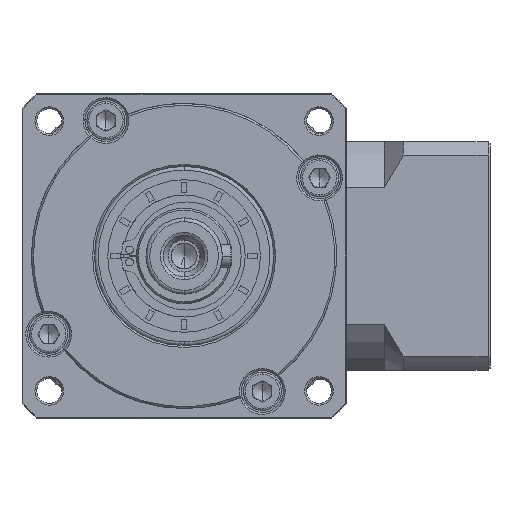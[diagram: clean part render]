
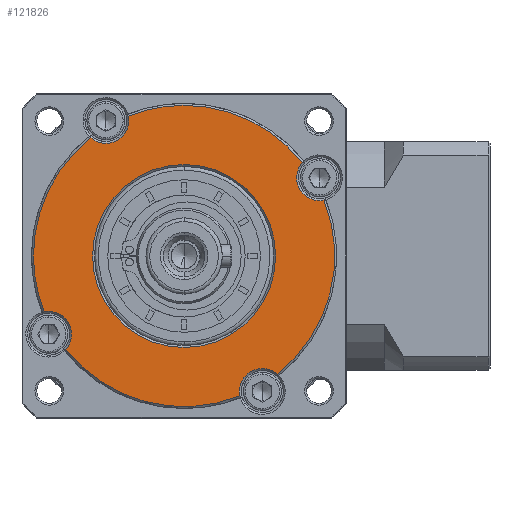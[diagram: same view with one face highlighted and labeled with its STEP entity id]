
A CAD part, left-side view. The second image highlights one B-rep face of the part: STEP entity #121826.
In plain terms, the highlighted planar face has unit normal (-1, 0, 0).
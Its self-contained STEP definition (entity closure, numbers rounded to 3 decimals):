
#231 = CIRCLE ( 'NONE', #160649, 39.5 ) ;
#1283 = DIRECTION ( 'NONE',  ( 1., 0., 0. ) ) ;
#1534 = DIRECTION ( 'NONE',  ( 1., 0., 0. ) ) ;
#2944 = CIRCLE ( 'NONE', #53616, 6. ) ;
#4225 = ORIENTED_EDGE ( 'NONE', *, *, #18639, .F. ) ;
#5089 = CARTESIAN_POINT ( 'NONE',  ( -104.86, -5.555, -122.89 ) ) ;
#5146 = CIRCLE ( 'NONE', #153639, 39.5 ) ;
#10263 = EDGE_CURVE ( 'NONE', #135208, #82664, #5146, .T. ) ;
#14189 = FACE_BOUND ( 'NONE', #161072, .T. ) ;
#18488 = DIRECTION ( 'NONE',  ( 0., 0., 1. ) ) ;
#18525 = DIRECTION ( 'NONE',  ( 1., 0., 0. ) ) ;
#18639 = EDGE_CURVE ( 'NONE', #142293, #23270, #36441, .T. ) ;
#23270 = VERTEX_POINT ( 'NONE', #166067 ) ;
#25372 = ORIENTED_EDGE ( 'NONE', *, *, #87611, .T. ) ;
#26601 = AXIS2_PLACEMENT_3D ( 'NONE', #81597, #1534, #95001 ) ;
#26745 = CARTESIAN_POINT ( 'NONE',  ( -104.86, -5.555, -122.89 ) ) ;
#27176 = AXIS2_PLACEMENT_3D ( 'NONE', #108130, #28060, #121541 ) ;
#28060 = DIRECTION ( 'NONE',  ( 1., 0., 0. ) ) ;
#28217 = CARTESIAN_POINT ( 'NONE',  ( -104.86, 31.14, -137.508 ) ) ;
#29531 = CARTESIAN_POINT ( 'NONE',  ( -104.86, 14.945, -87.383 ) ) ;
#32075 = VERTEX_POINT ( 'NONE', #71315 ) ;
#32688 = ORIENTED_EDGE ( 'NONE', *, *, #10263, .F. ) ;
#33049 = CIRCLE ( 'NONE', #158533, 6. ) ;
#34208 = EDGE_CURVE ( 'NONE', #135208, #143760, #72575, .T. ) ;
#36024 = AXIS2_PLACEMENT_3D ( 'NONE', #98587, #18525, #112023 ) ;
#36441 = CIRCLE ( 'NONE', #111691, 39.5 ) ;
#36866 = EDGE_CURVE ( 'NONE', #150326, #140371, #77417, .T. ) ;
#38343 = DIRECTION ( 'NONE',  ( 1., 0., 0. ) ) ;
#40220 = DIRECTION ( 'NONE',  ( 0., -1., 0. ) ) ;
#40504 = CARTESIAN_POINT ( 'NONE',  ( -104.86, -5.555, -122.89 ) ) ;
#41026 = EDGE_CURVE ( 'NONE', #140371, #32075, #33049, .T. ) ;
#41742 = VERTEX_POINT ( 'NONE', #164964 ) ;
#42983 = DIRECTION ( 'NONE',  ( 0., 0., -1. ) ) ;
#43667 = AXIS2_PLACEMENT_3D ( 'NONE', #139722, #59665, #153214 ) ;
#45767 = ORIENTED_EDGE ( 'NONE', *, *, #53891, .T. ) ;
#48514 = CARTESIAN_POINT ( 'NONE',  ( -104.86, 14.945, -93.383 ) ) ;
#48976 = AXIS2_PLACEMENT_3D ( 'NONE', #155582, #75487, #169003 ) ;
#51560 = CARTESIAN_POINT ( 'NONE',  ( -104.86, -5.555, -122.89 ) ) ;
#53396 = CARTESIAN_POINT ( 'NONE',  ( -104.86, -20.174, -159.585 ) ) ;
#53550 = AXIS2_PLACEMENT_3D ( 'NONE', #26745, #120205, #40220 ) ;
#53616 = AXIS2_PLACEMENT_3D ( 'NONE', #29531, #123016, #42983 ) ;
#53891 = EDGE_CURVE ( 'NONE', #153672, #66018, #128274, .T. ) ;
#53919 = DIRECTION ( 'NONE',  ( 0., 1., 0. ) ) ;
#57002 = EDGE_CURVE ( 'NONE', #82664, #41742, #231, .T. ) ;
#57784 = ORIENTED_EDGE ( 'NONE', *, *, #115401, .T. ) ;
#59665 = DIRECTION ( 'NONE',  ( -1., 0., 0. ) ) ;
#62623 = EDGE_CURVE ( 'NONE', #23270, #32075, #136123, .T. ) ;
#63974 = VERTEX_POINT ( 'NONE', #53396 ) ;
#64248 = AXIS2_PLACEMENT_3D ( 'NONE', #157200, #77133, #170615 ) ;
#64828 = CARTESIAN_POINT ( 'NONE',  ( -104.86, -41.062, -108.39 ) ) ;
#64987 = DIRECTION ( 'NONE',  ( 0., 1., 0. ) ) ;
#66018 = VERTEX_POINT ( 'NONE', #172288 ) ;
#66916 = CARTESIAN_POINT ( 'NONE',  ( -104.86, 33.945, -122.89 ) ) ;
#67704 = EDGE_CURVE ( 'NONE', #63974, #143760, #131502, .T. ) ;
#69346 = ORIENTED_EDGE ( 'NONE', *, *, #41026, .T. ) ;
#69536 = CARTESIAN_POINT ( 'NONE',  ( -104.86, -41.062, -102.39 ) ) ;
#70709 = AXIS2_PLACEMENT_3D ( 'NONE', #5089, #98546, #18488 ) ;
#71315 = CARTESIAN_POINT ( 'NONE',  ( -104.86, -36.563, -98.42 ) ) ;
#72575 = CIRCLE ( 'NONE', #64248, 6. ) ;
#74569 = DIRECTION ( 'NONE',  ( 1., 0., 0. ) ) ;
#75370 = AXIS2_PLACEMENT_3D ( 'NONE', #154680, #74569, #168109 ) ;
#75487 = DIRECTION ( 'NONE',  ( 1., 0., 0. ) ) ;
#77133 = DIRECTION ( 'NONE',  ( 1., 0., 0. ) ) ;
#77417 = CIRCLE ( 'NONE', #26601, 6. ) ;
#78826 = VERTEX_POINT ( 'NONE', #98941 ) ;
#81347 = CARTESIAN_POINT ( 'NONE',  ( -104.86, -5.555, -122.89 ) ) ;
#81597 = CARTESIAN_POINT ( 'NONE',  ( -104.86, -41.062, -102.39 ) ) ;
#82239 = ORIENTED_EDGE ( 'NONE', *, *, #138859, .T. ) ;
#82413 = CARTESIAN_POINT ( 'NONE',  ( -104.86, 25.453, -147.359 ) ) ;
#82664 = VERTEX_POINT ( 'NONE', #66916 ) ;
#83030 = DIRECTION ( 'NONE',  ( 0., 0., -1. ) ) ;
#85966 = CARTESIAN_POINT ( 'NONE',  ( -104.86, 9.064, -86.194 ) ) ;
#86228 = ORIENTED_EDGE ( 'NONE', *, *, #97620, .F. ) ;
#87611 = EDGE_CURVE ( 'NONE', #63974, #78826, #140081, .T. ) ;
#91826 = CARTESIAN_POINT ( 'NONE',  ( -104.86, -42.25, -108.271 ) ) ;
#94755 = DIRECTION ( 'NONE',  ( 0., 0., 1. ) ) ;
#95001 = DIRECTION ( 'NONE',  ( 0., 0., -1. ) ) ;
#97620 = EDGE_CURVE ( 'NONE', #150326, #78826, #137350, .T. ) ;
#98546 = DIRECTION ( 'NONE',  ( 1., 0., 0. ) ) ;
#98587 = CARTESIAN_POINT ( 'NONE',  ( -104.86, 14.945, -87.383 ) ) ;
#98941 = CARTESIAN_POINT ( 'NONE',  ( -104.86, -30.024, -153.897 ) ) ;
#100983 = EDGE_CURVE ( 'NONE', #164049, #41742, #166433, .T. ) ;
#104892 = ORIENTED_EDGE ( 'NONE', *, *, #100983, .T. ) ;
#108130 = CARTESIAN_POINT ( 'NONE',  ( -104.86, -5.555, -122.89 ) ) ;
#111691 = AXIS2_PLACEMENT_3D ( 'NONE', #118344, #38343, #131836 ) ;
#112023 = DIRECTION ( 'NONE',  ( 0., 0., -1. ) ) ;
#115401 = EDGE_CURVE ( 'NONE', #142293, #164049, #2944, .T. ) ;
#117206 = CIRCLE ( 'NONE', #27176, 24. ) ;
#118344 = CARTESIAN_POINT ( 'NONE',  ( -104.86, -5.555, -122.89 ) ) ;
#120205 = DIRECTION ( 'NONE',  ( 1., 0., 0. ) ) ;
#121541 = DIRECTION ( 'NONE',  ( 0., -1., 0. ) ) ;
#121826 = ADVANCED_FACE ( 'NONE', ( #152210, #14189 ), #125647, .T. ) ;
#123016 = DIRECTION ( 'NONE',  ( 1., 0., 0. ) ) ;
#123240 = ORIENTED_EDGE ( 'NONE', *, *, #34208, .T. ) ;
#125647 = PLANE ( 'NONE',  #43667 ) ;
#128197 = ORIENTED_EDGE ( 'NONE', *, *, #67704, .F. ) ;
#128274 = CIRCLE ( 'NONE', #53550, 24. ) ;
#131502 = CIRCLE ( 'NONE', #70709, 39.5 ) ;
#131836 = DIRECTION ( 'NONE',  ( 0., 0., 1. ) ) ;
#133996 = DIRECTION ( 'NONE',  ( 1., 0., 0. ) ) ;
#135208 = VERTEX_POINT ( 'NONE', #28217 ) ;
#136123 = CIRCLE ( 'NONE', #75370, 39.5 ) ;
#137350 = CIRCLE ( 'NONE', #170989, 39.5 ) ;
#138859 = EDGE_CURVE ( 'NONE', #66018, #153672, #117206, .T. ) ;
#139722 = CARTESIAN_POINT ( 'NONE',  ( -104.86, -5.555, -122.89 ) ) ;
#140081 = CIRCLE ( 'NONE', #48976, 6. ) ;
#140371 = VERTEX_POINT ( 'NONE', #64828 ) ;
#142293 = VERTEX_POINT ( 'NONE', #85966 ) ;
#143760 = VERTEX_POINT ( 'NONE', #82413 ) ;
#145042 = ORIENTED_EDGE ( 'NONE', *, *, #36866, .T. ) ;
#145079 = DIRECTION ( 'NONE',  ( 1., 0., 0. ) ) ;
#150326 = VERTEX_POINT ( 'NONE', #91826 ) ;
#152210 = FACE_OUTER_BOUND ( 'NONE', #155780, .T. ) ;
#153214 = DIRECTION ( 'NONE',  ( 0., 0., -1. ) ) ;
#153639 = AXIS2_PLACEMENT_3D ( 'NONE', #40504, #133996, #53919 ) ;
#153672 = VERTEX_POINT ( 'NONE', #159576 ) ;
#154680 = CARTESIAN_POINT ( 'NONE',  ( -104.86, -5.555, -122.89 ) ) ;
#155582 = CARTESIAN_POINT ( 'NONE',  ( -104.86, -26.055, -158.397 ) ) ;
#155780 = EDGE_LOOP ( 'NONE', ( #4225, #57784, #104892, #156527, #32688, #123240, #128197, #25372, #86228, #145042, #69346, #170383 ) ) ;
#156527 = ORIENTED_EDGE ( 'NONE', *, *, #57002, .F. ) ;
#157200 = CARTESIAN_POINT ( 'NONE',  ( -104.86, 29.952, -143.39 ) ) ;
#158533 = AXIS2_PLACEMENT_3D ( 'NONE', #69536, #163128, #83030 ) ;
#159576 = CARTESIAN_POINT ( 'NONE',  ( -104.86, 18.445, -122.89 ) ) ;
#160649 = AXIS2_PLACEMENT_3D ( 'NONE', #51560, #145079, #64987 ) ;
#161072 = EDGE_LOOP ( 'NONE', ( #82239, #45767 ) ) ;
#163128 = DIRECTION ( 'NONE',  ( 1., 0., 0. ) ) ;
#164049 = VERTEX_POINT ( 'NONE', #48514 ) ;
#164964 = CARTESIAN_POINT ( 'NONE',  ( -104.86, 18.915, -91.882 ) ) ;
#166067 = CARTESIAN_POINT ( 'NONE',  ( -104.86, -5.555, -83.39 ) ) ;
#166433 = CIRCLE ( 'NONE', #36024, 6. ) ;
#168109 = DIRECTION ( 'NONE',  ( 0., 0., 1. ) ) ;
#169003 = DIRECTION ( 'NONE',  ( 0., 0., -1. ) ) ;
#170383 = ORIENTED_EDGE ( 'NONE', *, *, #62623, .F. ) ;
#170615 = DIRECTION ( 'NONE',  ( 0., 0., -1. ) ) ;
#170989 = AXIS2_PLACEMENT_3D ( 'NONE', #81347, #1283, #94755 ) ;
#172288 = CARTESIAN_POINT ( 'NONE',  ( -104.86, -29.555, -122.89 ) ) ;
